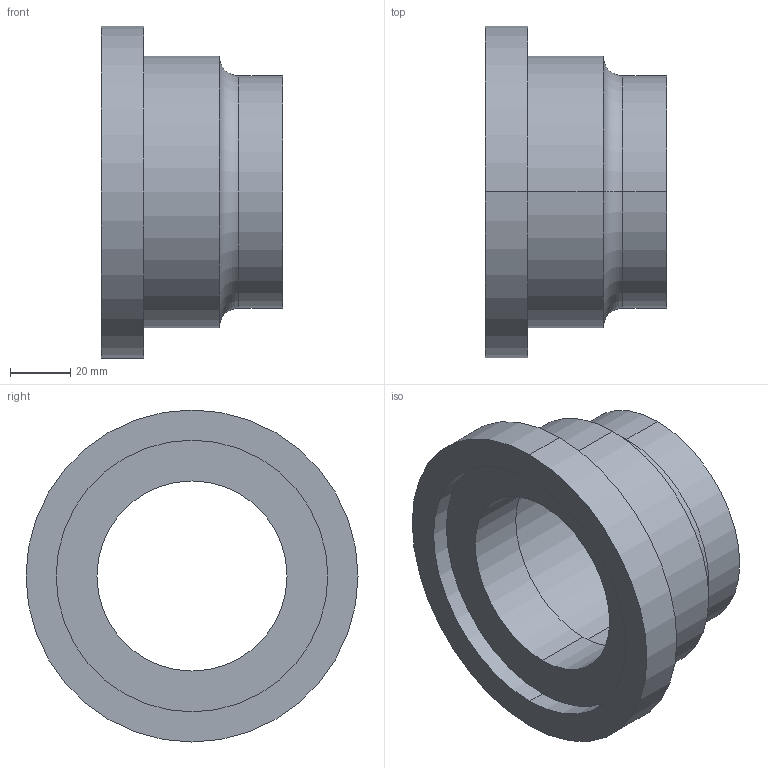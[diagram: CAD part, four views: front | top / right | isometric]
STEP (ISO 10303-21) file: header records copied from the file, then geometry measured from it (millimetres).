
FILE_DESCRIPTION (( 'STEP AP203' ), '1' );
FILE_NAME ('2 1-2(2 5-8銅管用).STEP', '2014-07-15T00:43:39', ( 'jameswang' ), ( '' ), 'SwSTEP 2.0', 'SolidWorks 2013', '' );
FILE_SCHEMA (( 'CONFIG_CONTROL_DESIGN' ));
Length unit declared in the file: millimetre
Products named in the file (1): 2 1-2(2 5-8銅管用)
Bounding box: 60 x 110 x 110 mm (x, y, z)
Volume: 170840.6 mm3; surface area: 41573.3 mm2
Topology: 1 solids, 1 shells, 23 faces, 46 edges, 28 vertices
Faces by surface type: cylinder 12, plane 5, torus 4, cone 2
Entity records: 689 total; most frequent: DIRECTION 126, CARTESIAN_POINT 98, ORIENTED_EDGE 92, AXIS2_PLACEMENT_3D 56, EDGE_CURVE 46, CIRCLE 32, EDGE_LOOP 28, VERTEX_POINT 28
